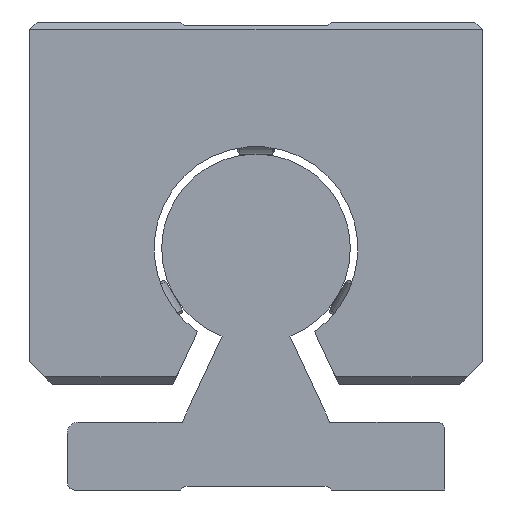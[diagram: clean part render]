
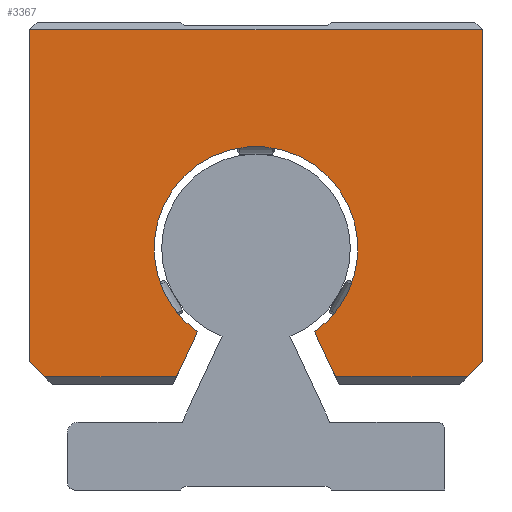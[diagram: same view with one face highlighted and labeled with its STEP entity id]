
A CAD part, left-side view. The second image highlights one B-rep face of the part: STEP entity #3367.
In plain terms, the highlighted planar face has unit normal (-1, 0, 0).
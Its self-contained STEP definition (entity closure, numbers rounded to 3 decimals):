
#2833=CARTESIAN_POINT('',(136.638,-30.,61.));
#2834=VERTEX_POINT('',#2833);
#2872=CARTESIAN_POINT('',(136.638,-30.,17.));
#2873=VERTEX_POINT('',#2872);
#2874=CARTESIAN_POINT('',(136.638,-30.,61.));
#2875=DIRECTION('',(0.0,0.0,-1.0));
#2876=VECTOR('',#2875,44.);
#2877=LINE('',#2874,#2876);
#2878=EDGE_CURVE('',#2834,#2873,#2877,.T.);
#2963=CARTESIAN_POINT('',(136.638,30.,61.));
#2964=VERTEX_POINT('',#2963);
#2971=CARTESIAN_POINT('',(136.638,30.,61.));
#2972=DIRECTION('',(0.0,-1.0,0.0));
#2973=VECTOR('',#2972,60.0);
#2974=LINE('',#2971,#2973);
#2975=EDGE_CURVE('',#2964,#2834,#2974,.T.);
#2985=CARTESIAN_POINT('',(136.638,28.,15.));
#2986=VERTEX_POINT('',#2985);
#3003=CARTESIAN_POINT('',(136.638,10.534,15.));
#3004=VERTEX_POINT('',#3003);
#3011=CARTESIAN_POINT('',(136.638,10.534,15.));
#3012=DIRECTION('',(0.0,1.0,0.0));
#3013=VECTOR('',#3012,17.466);
#3014=LINE('',#3011,#3013);
#3015=EDGE_CURVE('',#3004,#2986,#3014,.T.);
#3074=CARTESIAN_POINT('',(136.638,30.,17.));
#3075=VERTEX_POINT('',#3074);
#3076=CARTESIAN_POINT('',(136.638,28.,15.));
#3077=DIRECTION('',(0.0,0.707,0.707));
#3078=VECTOR('',#3077,2.828);
#3079=LINE('',#3076,#3078);
#3080=EDGE_CURVE('',#2986,#3075,#3079,.T.);
#3283=CARTESIAN_POINT('',(136.638,-28.,15.));
#3284=VERTEX_POINT('',#3283);
#3285=CARTESIAN_POINT('',(136.638,-30.,17.));
#3286=DIRECTION('',(0.0,0.707,-0.707));
#3287=VECTOR('',#3286,2.828);
#3288=LINE('',#3285,#3287);
#3289=EDGE_CURVE('',#2873,#3284,#3288,.T.);
#3307=CARTESIAN_POINT('',(136.638,-10.534,15.));
#3308=VERTEX_POINT('',#3307);
#3309=CARTESIAN_POINT('',(136.638,-28.,15.));
#3310=DIRECTION('',(0.0,1.0,0.0));
#3311=VECTOR('',#3310,17.466);
#3312=LINE('',#3309,#3311);
#3313=EDGE_CURVE('',#3284,#3308,#3312,.T.);
#3325=CARTESIAN_POINT('',(136.638,-20.,61.75));
#3326=DIRECTION('',(1.0,0.0,0.0));
#3327=DIRECTION('',(0.0,0.0,-1.0));
#3328=AXIS2_PLACEMENT_3D('',#3325,#3326,#3327);
#3329=PLANE('',#3328);
#3330=ORIENTED_EDGE('',*,*,#3015,.F.);
#3331=CARTESIAN_POINT('',(136.638,7.758,20.952));
#3332=VERTEX_POINT('',#3331);
#3333=CARTESIAN_POINT('',(136.638,7.758,20.952));
#3334=DIRECTION('',(0.0,0.423,-0.906));
#3335=VECTOR('',#3334,6.567);
#3336=LINE('',#3333,#3335);
#3337=EDGE_CURVE('',#3332,#3004,#3336,.T.);
#3338=ORIENTED_EDGE('',*,*,#3337,.F.);
#3339=CARTESIAN_POINT('',(136.638,-7.758,20.952));
#3340=VERTEX_POINT('',#3339);
#3341=CARTESIAN_POINT('',(136.638,0.,32.));
#3342=DIRECTION('',(-1.0,0.0,0.0));
#3343=DIRECTION('',(0.0,-1.0,0.0));
#3344=AXIS2_PLACEMENT_3D('',#3341,#3342,#3343);
#3345=CIRCLE('',#3344,13.5);
#3346=EDGE_CURVE('',#3340,#3332,#3345,.T.);
#3347=ORIENTED_EDGE('',*,*,#3346,.F.);
#3348=CARTESIAN_POINT('',(136.638,-10.534,15.));
#3349=DIRECTION('',(0.0,0.423,0.906));
#3350=VECTOR('',#3349,6.567);
#3351=LINE('',#3348,#3350);
#3352=EDGE_CURVE('',#3308,#3340,#3351,.T.);
#3353=ORIENTED_EDGE('',*,*,#3352,.F.);
#3354=ORIENTED_EDGE('',*,*,#3313,.F.);
#3355=ORIENTED_EDGE('',*,*,#3289,.F.);
#3356=ORIENTED_EDGE('',*,*,#2878,.F.);
#3357=ORIENTED_EDGE('',*,*,#2975,.F.);
#3358=CARTESIAN_POINT('',(136.638,30.,17.));
#3359=DIRECTION('',(0.0,0.0,1.0));
#3360=VECTOR('',#3359,44.);
#3361=LINE('',#3358,#3360);
#3362=EDGE_CURVE('',#3075,#2964,#3361,.T.);
#3363=ORIENTED_EDGE('',*,*,#3362,.F.);
#3364=ORIENTED_EDGE('',*,*,#3080,.F.);
#3365=EDGE_LOOP('',(#3330,#3338,#3347,#3353,#3354,#3355,#3356,#3357,#3363,#3364));
#3366=FACE_OUTER_BOUND('',#3365,.T.);
#3367=ADVANCED_FACE('',(#3366),#3329,.F.);
